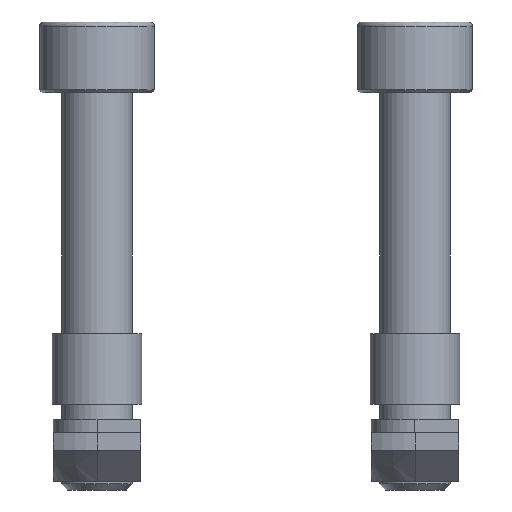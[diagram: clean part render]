
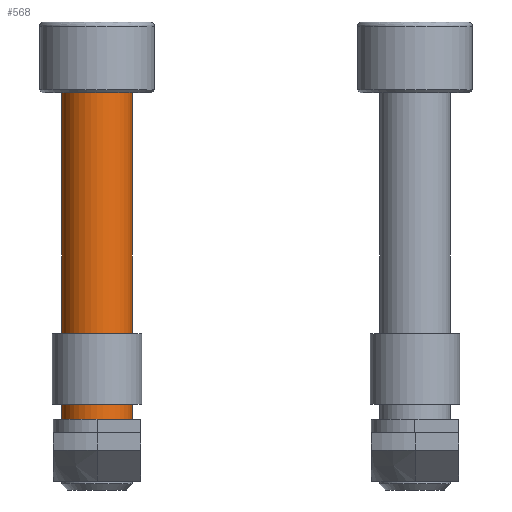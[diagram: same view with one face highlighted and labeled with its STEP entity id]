
A CAD part, front view. The second image highlights one B-rep face of the part: STEP entity #568.
In plain terms, the highlighted cylindrical face has radius 4 mm (diameter 8 mm), a partial arc.
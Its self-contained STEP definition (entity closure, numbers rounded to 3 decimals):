
#126 = FACE_OUTER_BOUND ( 'NONE', #1296, .T. ) ;
#151 = DIRECTION ( 'NONE',  ( 0., 0., -1. ) ) ;
#211 = ORIENTED_EDGE ( 'NONE', *, *, #1752, .T. ) ;
#268 = AXIS2_PLACEMENT_3D ( 'NONE', #2916, #2290, #1972 ) ;
#281 = DIRECTION ( 'NONE',  ( 0., 0., 1. ) ) ;
#368 = CARTESIAN_POINT ( 'NONE',  ( -20., 0., 32.5 ) ) ;
#417 = DIRECTION ( 'NONE',  ( 0., 0., 1. ) ) ;
#425 = CIRCLE ( 'NONE', #2554, 4. ) ;
#437 = CARTESIAN_POINT ( 'NONE',  ( -20., 0., -12.5 ) ) ;
#523 = EDGE_CURVE ( 'NONE', #2649, #3065, #1390, .T. ) ;
#568 = ADVANCED_FACE ( 'NONE', ( #126 ), #621, .T. ) ;
#621 = CYLINDRICAL_SURFACE ( 'NONE', #3011, 4. ) ;
#646 = ORIENTED_EDGE ( 'NONE', *, *, #1740, .T. ) ;
#1083 = VERTEX_POINT ( 'NONE', #2059 ) ;
#1135 = CARTESIAN_POINT ( 'NONE',  ( -16., 0., -4.5 ) ) ;
#1153 = DIRECTION ( 'NONE',  ( 0., 0., 1. ) ) ;
#1296 = EDGE_LOOP ( 'NONE', ( #2187, #2236, #211, #646 ) ) ;
#1379 = CARTESIAN_POINT ( 'NONE',  ( -24., 0., -12.5 ) ) ;
#1390 = CIRCLE ( 'NONE', #268, 4. ) ;
#1569 = DIRECTION ( 'NONE',  ( 1., 0., 0. ) ) ;
#1689 = DIRECTION ( 'NONE',  ( 1., 0., 0. ) ) ;
#1709 = EDGE_CURVE ( 'NONE', #2649, #1083, #3058, .T. ) ;
#1740 = EDGE_CURVE ( 'NONE', #2682, #1083, #425, .T. ) ;
#1748 = VECTOR ( 'NONE', #1153, 1000. ) ;
#1752 = EDGE_CURVE ( 'NONE', #3065, #2682, #2342, .T. ) ;
#1972 = DIRECTION ( 'NONE',  ( 1., 0., 0. ) ) ;
#2059 = CARTESIAN_POINT ( 'NONE',  ( -24., 0., 32.5 ) ) ;
#2072 = CARTESIAN_POINT ( 'NONE',  ( -24., 0., -4.5 ) ) ;
#2187 = ORIENTED_EDGE ( 'NONE', *, *, #1709, .F. ) ;
#2236 = ORIENTED_EDGE ( 'NONE', *, *, #523, .T. ) ;
#2290 = DIRECTION ( 'NONE',  ( 0., 0., 1. ) ) ;
#2342 = LINE ( 'NONE', #3020, #2976 ) ;
#2554 = AXIS2_PLACEMENT_3D ( 'NONE', #368, #151, #1569 ) ;
#2649 = VERTEX_POINT ( 'NONE', #2072 ) ;
#2682 = VERTEX_POINT ( 'NONE', #2763 ) ;
#2763 = CARTESIAN_POINT ( 'NONE',  ( -16., 0., 32.5 ) ) ;
#2916 = CARTESIAN_POINT ( 'NONE',  ( -20., 0., -4.5 ) ) ;
#2976 = VECTOR ( 'NONE', #417, 1000. ) ;
#3011 = AXIS2_PLACEMENT_3D ( 'NONE', #437, #281, #1689 ) ;
#3020 = CARTESIAN_POINT ( 'NONE',  ( -16., 0., -12.5 ) ) ;
#3058 = LINE ( 'NONE', #1379, #1748 ) ;
#3065 = VERTEX_POINT ( 'NONE', #1135 ) ;
